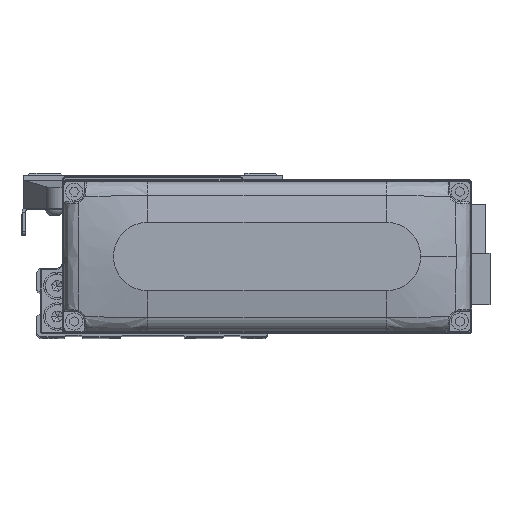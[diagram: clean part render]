
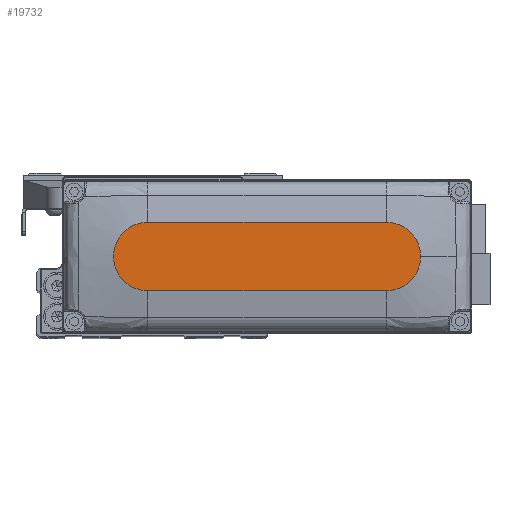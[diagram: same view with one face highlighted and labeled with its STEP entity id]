
A CAD part, top view. The second image highlights one B-rep face of the part: STEP entity #19732.
In plain terms, the highlighted planar face has unit normal (0, 0, 1).
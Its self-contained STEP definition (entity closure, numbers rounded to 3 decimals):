
#1698 = CIRCLE ( 'NONE', #25758, 10. ) ;
#1753 = AXIS2_PLACEMENT_3D ( 'NONE', #32289, #2808, #15933 ) ;
#2808 = DIRECTION ( 'NONE',  ( 0., 0., 1. ) ) ;
#3032 = CARTESIAN_POINT ( 'NONE',  ( 45., 0., 28. ) ) ;
#4259 = EDGE_LOOP ( 'NONE', ( #10168, #25243, #31474, #7178, #5924 ) ) ;
#4873 = VERTEX_POINT ( 'NONE', #31272 ) ;
#4986 = DIRECTION ( 'NONE',  ( 0., 0., 1. ) ) ;
#5924 = ORIENTED_EDGE ( 'NONE', *, *, #21482, .T. ) ;
#6107 = CARTESIAN_POINT ( 'NONE',  ( 35., -10., 28. ) ) ;
#6455 = EDGE_CURVE ( 'NONE', #19960, #17553, #1698, .T. ) ;
#7178 = ORIENTED_EDGE ( 'NONE', *, *, #6455, .T. ) ;
#7828 = DIRECTION ( 'NONE',  ( 1., 0., 0. ) ) ;
#8106 = CARTESIAN_POINT ( 'NONE',  ( -35., -10., 28. ) ) ;
#10168 = ORIENTED_EDGE ( 'NONE', *, *, #28105, .T. ) ;
#10311 = EDGE_CURVE ( 'NONE', #18572, #4873, #31443, .T. ) ;
#11057 = PLANE ( 'NONE',  #16159 ) ;
#11248 = DIRECTION ( 'NONE',  ( 1., 0., 0. ) ) ;
#11696 = DIRECTION ( 'NONE',  ( -1., 0., 0. ) ) ;
#12920 = AXIS2_PLACEMENT_3D ( 'NONE', #27595, #40712, #11248 ) ;
#15313 = CARTESIAN_POINT ( 'NONE',  ( 35., 10., 28. ) ) ;
#15933 = DIRECTION ( 'NONE',  ( 1., 0., 0. ) ) ;
#16159 = AXIS2_PLACEMENT_3D ( 'NONE', #24175, #37281, #7828 ) ;
#17553 = VERTEX_POINT ( 'NONE', #3032 ) ;
#18113 = DIRECTION ( 'NONE',  ( 1., 0., 0. ) ) ;
#18275 = VECTOR ( 'NONE', #11696, 1000. ) ;
#18572 = VERTEX_POINT ( 'NONE', #24803 ) ;
#19732 = ADVANCED_FACE ( 'NONE', ( #40530 ), #11057, .T. ) ;
#19960 = VERTEX_POINT ( 'NONE', #6107 ) ;
#20336 = CIRCLE ( 'NONE', #1753, 10. ) ;
#21222 = DIRECTION ( 'NONE',  ( 1., 0., 0. ) ) ;
#21482 = EDGE_CURVE ( 'NONE', #17553, #25164, #20336, .T. ) ;
#24175 = CARTESIAN_POINT ( 'NONE',  ( 0., 0., 28. ) ) ;
#24803 = CARTESIAN_POINT ( 'NONE',  ( -35., 10., 28. ) ) ;
#25164 = VERTEX_POINT ( 'NONE', #15313 ) ;
#25243 = ORIENTED_EDGE ( 'NONE', *, *, #10311, .T. ) ;
#25758 = AXIS2_PLACEMENT_3D ( 'NONE', #34449, #4986, #18113 ) ;
#27595 = CARTESIAN_POINT ( 'NONE',  ( -35., 0., 28. ) ) ;
#28047 = LINE ( 'NONE', #41161, #18275 ) ;
#28105 = EDGE_CURVE ( 'NONE', #25164, #18572, #28047, .T. ) ;
#31272 = CARTESIAN_POINT ( 'NONE',  ( -35., -10., 28. ) ) ;
#31443 = CIRCLE ( 'NONE', #12920, 10. ) ;
#31474 = ORIENTED_EDGE ( 'NONE', *, *, #34252, .T. ) ;
#32289 = CARTESIAN_POINT ( 'NONE',  ( 35., 0., 28. ) ) ;
#34252 = EDGE_CURVE ( 'NONE', #4873, #19960, #37558, .T. ) ;
#34449 = CARTESIAN_POINT ( 'NONE',  ( 35., 0., 28. ) ) ;
#37281 = DIRECTION ( 'NONE',  ( 0., 0., 1. ) ) ;
#37558 = LINE ( 'NONE', #8106, #41121 ) ;
#40530 = FACE_OUTER_BOUND ( 'NONE', #4259, .T. ) ;
#40712 = DIRECTION ( 'NONE',  ( 0., 0., 1. ) ) ;
#41121 = VECTOR ( 'NONE', #21222, 1000. ) ;
#41161 = CARTESIAN_POINT ( 'NONE',  ( -35., 10., 28. ) ) ;
